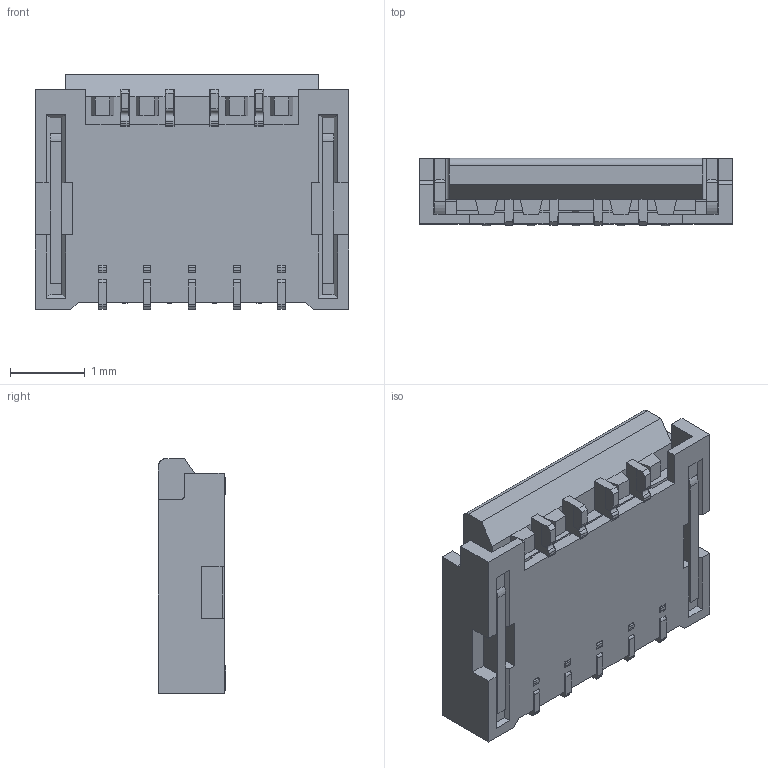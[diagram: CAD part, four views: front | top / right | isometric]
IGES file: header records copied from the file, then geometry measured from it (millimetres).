
Start section: SolidWorks IGES file using analytic representation for surfaces
Global section: file name: _exported\20613-009E-02C MINIFLEX 3-BFNH ACT CLOSE IGES R6 ALL.IGS; native system: SolidWorks 2023; preprocessor: SolidWorks 2023; author: E1480; date: 240912.173301; units: millimetre
Bounding box: 4.2 x 0.9 x 3.15 mm (x, y, z)
Surface area: 49.4 mm2 (no closed solid volume)
Topology: 0 solids, 0 shells, 386 faces, 2302 edges, 2302 vertices
Faces by surface type: bspline 326, revolution 60
